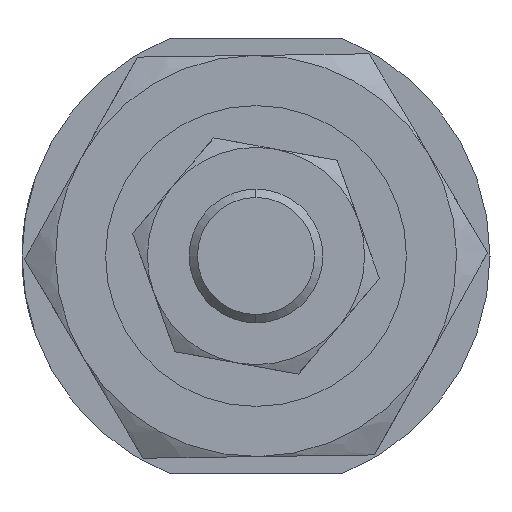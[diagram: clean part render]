
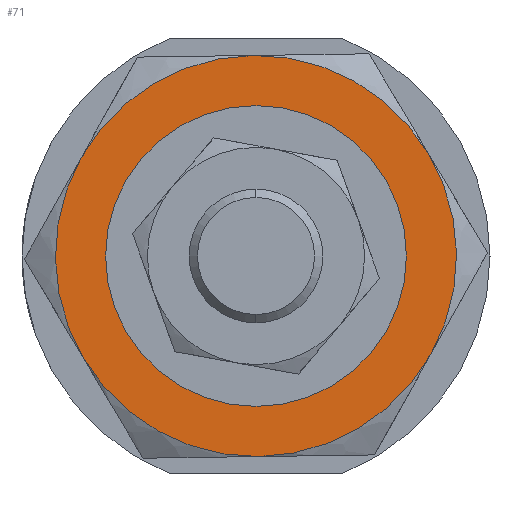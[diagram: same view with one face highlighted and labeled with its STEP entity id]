
A CAD part, left-side view. The second image highlights one B-rep face of the part: STEP entity #71.
In plain terms, the highlighted planar face has unit normal (-1, 0, 0) as drawn and (0, 0, -1) by its records, which use the part's own axes.
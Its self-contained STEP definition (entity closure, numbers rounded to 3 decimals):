
#63 = ORIENTED_EDGE ( 'NONE', *, *, #1728, .F. ) ;
#71 = ADVANCED_FACE ( 'NONE', ( #2468, #1149 ), #2892, .F. ) ;
#108 = EDGE_CURVE ( 'NONE', #3223, #2549, #444, .T. ) ;
#148 = DIRECTION ( 'NONE',  ( 1., 0., 0. ) ) ;
#207 = DIRECTION ( 'NONE',  ( 1., 0., 0. ) ) ;
#223 = CIRCLE ( 'NONE', #1257, 12. ) ;
#233 = DIRECTION ( 'NONE',  ( 0., 0., 1. ) ) ;
#239 = VERTEX_POINT ( 'NONE', #2952 ) ;
#431 = CARTESIAN_POINT ( 'NONE',  ( 0., 0., -4. ) ) ;
#444 = CIRCLE ( 'NONE', #3099, 12. ) ;
#454 = DIRECTION ( 'NONE',  ( 0., 0., 1. ) ) ;
#502 = CARTESIAN_POINT ( 'NONE',  ( 6., -10.392, -4. ) ) ;
#530 = CARTESIAN_POINT ( 'NONE',  ( -6., 10.392, -4. ) ) ;
#538 = AXIS2_PLACEMENT_3D ( 'NONE', #1551, #233, #1283 ) ;
#739 = EDGE_CURVE ( 'NONE', #1612, #1710, #2799, .T. ) ;
#768 = ORIENTED_EDGE ( 'NONE', *, *, #900, .T. ) ;
#847 = EDGE_CURVE ( 'NONE', #2549, #1042, #2088, .T. ) ;
#881 = CARTESIAN_POINT ( 'NONE',  ( 6., 10.392, -4. ) ) ;
#900 = EDGE_CURVE ( 'NONE', #239, #3248, #2675, .T. ) ;
#904 = CARTESIAN_POINT ( 'NONE',  ( 0., 0., -4. ) ) ;
#935 = AXIS2_PLACEMENT_3D ( 'NONE', #2283, #2860, #1469 ) ;
#940 = CARTESIAN_POINT ( 'NONE',  ( 0., 0., -4. ) ) ;
#1011 = ORIENTED_EDGE ( 'NONE', *, *, #1521, .F. ) ;
#1042 = VERTEX_POINT ( 'NONE', #530 ) ;
#1094 = EDGE_CURVE ( 'NONE', #1042, #1612, #223, .T. ) ;
#1149 = FACE_OUTER_BOUND ( 'NONE', #2976, .T. ) ;
#1207 = CARTESIAN_POINT ( 'NONE',  ( -12., 0., -4. ) ) ;
#1257 = AXIS2_PLACEMENT_3D ( 'NONE', #940, #1332, #1841 ) ;
#1271 = CIRCLE ( 'NONE', #2216, 12. ) ;
#1283 = DIRECTION ( 'NONE',  ( 1., 0., 0. ) ) ;
#1332 = DIRECTION ( 'NONE',  ( 0., 0., 1. ) ) ;
#1452 = DIRECTION ( 'NONE',  ( 0., 0., 1. ) ) ;
#1459 = DIRECTION ( 'NONE',  ( 0., 0., 1. ) ) ;
#1469 = DIRECTION ( 'NONE',  ( 1., 0., 0. ) ) ;
#1521 = EDGE_CURVE ( 'NONE', #1710, #2269, #1271, .T. ) ;
#1551 = CARTESIAN_POINT ( 'NONE',  ( 0., 0., -4. ) ) ;
#1570 = CARTESIAN_POINT ( 'NONE',  ( 0., 0., -4. ) ) ;
#1612 = VERTEX_POINT ( 'NONE', #1207 ) ;
#1710 = VERTEX_POINT ( 'NONE', #1987 ) ;
#1728 = EDGE_CURVE ( 'NONE', #2269, #3223, #3259, .T. ) ;
#1774 = CARTESIAN_POINT ( 'NONE',  ( 0., 0., -4. ) ) ;
#1841 = DIRECTION ( 'NONE',  ( 1., 0., 0. ) ) ;
#1873 = AXIS2_PLACEMENT_3D ( 'NONE', #2284, #2136, #2099 ) ;
#1924 = EDGE_CURVE ( 'NONE', #3248, #239, #2398, .T. ) ;
#1973 = CARTESIAN_POINT ( 'NONE',  ( 0., 0., -4. ) ) ;
#1987 = CARTESIAN_POINT ( 'NONE',  ( -6., -10.392, -4. ) ) ;
#1990 = AXIS2_PLACEMENT_3D ( 'NONE', #1973, #2030, #2335 ) ;
#2030 = DIRECTION ( 'NONE',  ( 0., 0., 1. ) ) ;
#2088 = CIRCLE ( 'NONE', #2509, 12. ) ;
#2099 = DIRECTION ( 'NONE',  ( 1., 0., 0. ) ) ;
#2136 = DIRECTION ( 'NONE',  ( 0., 0., 1. ) ) ;
#2169 = ORIENTED_EDGE ( 'NONE', *, *, #847, .F. ) ;
#2189 = ORIENTED_EDGE ( 'NONE', *, *, #108, .F. ) ;
#2216 = AXIS2_PLACEMENT_3D ( 'NONE', #431, #2686, #207 ) ;
#2260 = ORIENTED_EDGE ( 'NONE', *, *, #1094, .F. ) ;
#2269 = VERTEX_POINT ( 'NONE', #502 ) ;
#2283 = CARTESIAN_POINT ( 'NONE',  ( 0., 0., -4. ) ) ;
#2284 = CARTESIAN_POINT ( 'NONE',  ( 0., 0., -4. ) ) ;
#2289 = DIRECTION ( 'NONE',  ( 1., 0., 0. ) ) ;
#2320 = ORIENTED_EDGE ( 'NONE', *, *, #1924, .T. ) ;
#2335 = DIRECTION ( 'NONE',  ( 1., 0., 0. ) ) ;
#2351 = ORIENTED_EDGE ( 'NONE', *, *, #739, .F. ) ;
#2375 = CARTESIAN_POINT ( 'NONE',  ( 12., 0., -4. ) ) ;
#2398 = CIRCLE ( 'NONE', #538, 8.25 ) ;
#2468 = FACE_BOUND ( 'NONE', #2827, .T. ) ;
#2509 = AXIS2_PLACEMENT_3D ( 'NONE', #1774, #454, #2289 ) ;
#2549 = VERTEX_POINT ( 'NONE', #881 ) ;
#2675 = CIRCLE ( 'NONE', #1873, 8.25 ) ;
#2686 = DIRECTION ( 'NONE',  ( 0., 0., 1. ) ) ;
#2799 = CIRCLE ( 'NONE', #1990, 12. ) ;
#2827 = EDGE_LOOP ( 'NONE', ( #2320, #768 ) ) ;
#2860 = DIRECTION ( 'NONE',  ( 0., 0., 1. ) ) ;
#2892 = PLANE ( 'NONE',  #2997 ) ;
#2952 = CARTESIAN_POINT ( 'NONE',  ( -8.25, 0., -4. ) ) ;
#2976 = EDGE_LOOP ( 'NONE', ( #2189, #63, #1011, #2351, #2260, #2169 ) ) ;
#2997 = AXIS2_PLACEMENT_3D ( 'NONE', #1570, #1452, #148 ) ;
#3090 = DIRECTION ( 'NONE',  ( 1., 0., 0. ) ) ;
#3099 = AXIS2_PLACEMENT_3D ( 'NONE', #904, #1459, #3090 ) ;
#3223 = VERTEX_POINT ( 'NONE', #2375 ) ;
#3248 = VERTEX_POINT ( 'NONE', #3254 ) ;
#3254 = CARTESIAN_POINT ( 'NONE',  ( 8.25, 0., -4. ) ) ;
#3259 = CIRCLE ( 'NONE', #935, 12. ) ;
